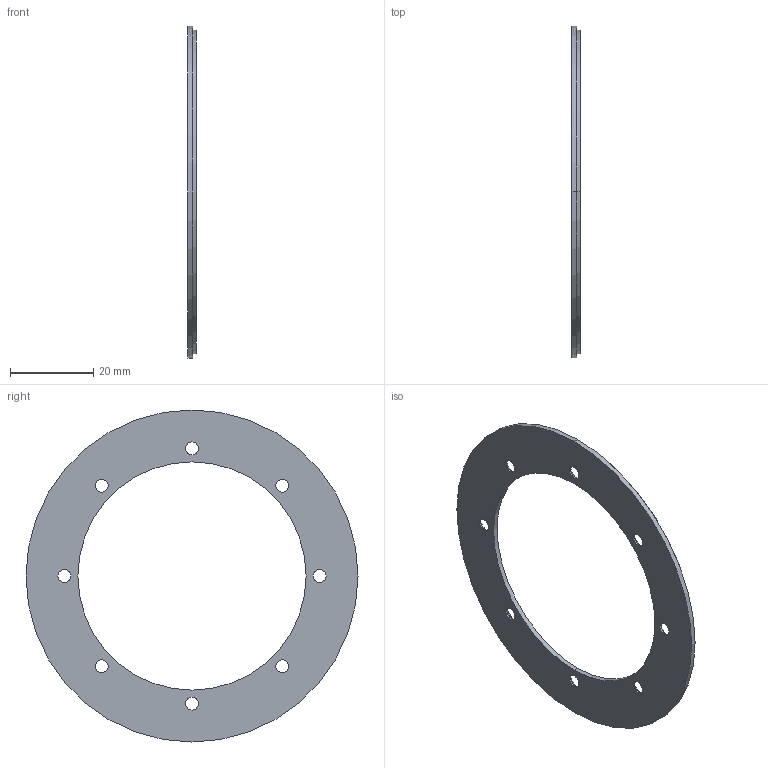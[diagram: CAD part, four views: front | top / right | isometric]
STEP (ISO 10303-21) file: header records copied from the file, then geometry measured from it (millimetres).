
FILE_DESCRIPTION (( 'STEP AP214' ), '1' );
FILE_NAME ('MRA080BC055DSE00.STEP', '2019-07-05T12:25:35', ( '' ), ( '' ), 'SwSTEP 2.0', 'SolidWorks 2016', '' );
FILE_SCHEMA (( 'AUTOMOTIVE_DESIGN' ));
Length unit declared in the file: millimetre
Products named in the file (3): 182-151_01_Prirobnica_OD80-ID56x1; MRA080BC055DSE00; 182-138_00_Elastoferrite_OD80-ID68x1
Assembly tree (2 placements, depth 2):
  MRA080BC055DSE00
    182-151_01_Prirobnica_OD80-ID56x1
    182-138_00_Elastoferrite_OD80-ID68x1
Bounding box: 2 x 80 x 80 mm (x, y, z)
Volume: 3992.4 mm3; surface area: 8413 mm2
Topology: 2 solids, 2 shells, 52 faces, 122 edges, 76 vertices
Faces by surface type: cylinder 24, cone 16, plane 12
Entity records: 1652 total; most frequent: DIRECTION 300, CARTESIAN_POINT 255, ORIENTED_EDGE 244, EDGE_CURVE 122, AXIS2_PLACEMENT_3D 121, VERTEX_POINT 76, EDGE_LOOP 74, CIRCLE 64
